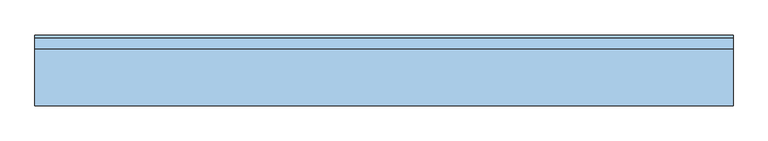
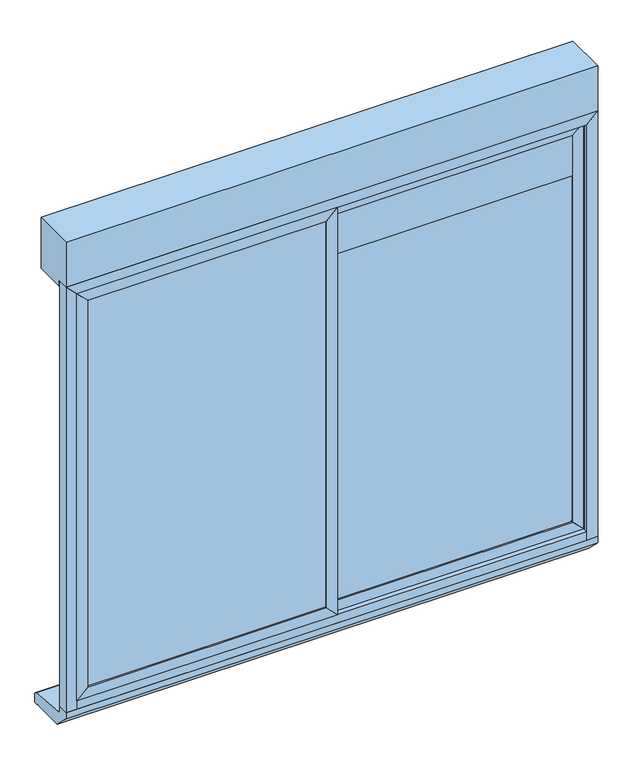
"""IFC4 building model written with IfcOpenShell, lengths in millimetres: window geometry, Rect 2 couliss+CVR+App : M03 Appuis 7 cm."""

from ifc_helpers import new_model, si_unit, point, frame, frame_2d, origin, origin_with_axes, place, context, project, spatial, polyline, circle_curve, trimmed, segment, composite_curve, outline, extrude, faceted_brep, source, transform, mapped, element, save


def window_b85a0a24(model_context):
    return source(origin(), model_context, "Body", "SolidModel", [
        extrude(outline(polyline([(-1200.0, -70.0), (-1200.0, -50.0), (1200.0, -50.0), (1200.0, -70.0), (-1200.0, -70.0)])), frame((0.0, 0.0, 1780.0), z_axis=(0.0, 0.0, 1.0), x_axis=(1.0, 0.0, 0.0)), (0.0, 0.0, 1.0), 395.0),
        extrude(outline(polyline([(100.0, 2300.0), (100.0, 2050.0), (-40.0, 2050.0), (-40.0, 2080.0), (-100.0, 2080.0), (-100.0, 2300.0), (100.0, 2300.0)])), frame((-1230.0, 0.0, 0.0), z_axis=(1.0, 0.0, 0.0), x_axis=(0.0, 1.0, 0.0)), (0.0, 0.0, 1.0), 2460.0),
        extrude(outline(polyline([(1200.0, -40.0), (1200.0, -50.0), (1180.0, -50.0), (1180.0, -40.0), (1200.0, -40.0)])), frame((0.0, 0.0, 40.0), z_axis=(0.0, 0.0, 1.0), x_axis=(1.0, 0.0, 0.0)), (0.0, 0.0, 1.0), 2010.0),
        extrude(outline(polyline([(1180.0, -80.0), (1180.0, -70.0), (1200.0, -70.0), (1200.0, -80.0), (1180.0, -80.0)])), frame((0.0, 0.0, 40.0), z_axis=(0.0, 0.0, 1.0), x_axis=(1.0, 0.0, 0.0)), (0.0, 0.0, 1.0), 2010.0),
        extrude(outline(polyline([(-1200.0, -40.0), (-1180.0, -40.0), (-1180.0, -50.0), (-1200.0, -50.0), (-1200.0, -40.0)])), frame((0.0, 0.0, 40.0), z_axis=(0.0, 0.0, 1.0), x_axis=(1.0, 0.0, 0.0)), (0.0, 0.0, 1.0), 2010.0),
        extrude(outline(polyline([(-1200.0, -80.0), (-1200.0, -70.0), (-1180.0, -70.0), (-1180.0, -80.0), (-1200.0, -80.0)])), frame((0.0, 0.0, 40.0), z_axis=(0.0, 0.0, 1.0), x_axis=(1.0, 0.0, 0.0)), (0.0, 0.0, 1.0), 2010.0),
        extrude(outline(polyline([(40.0, -25.0), (90.0, 25.0), (1980.0, 25.0), (2030.0, -25.0), (40.0, -25.0)])), frame((0.0, -75.0, 0.0), z_axis=(0.0, 1.0, 0.0), x_axis=(0.0, 0.0, 1.0)), (0.0, 0.0, 1.0), 25.0),
        extrude(outline(polyline([(25.0, -67.5), (25.0, -57.5), (1130.0, -57.5), (1130.0, -67.5), (25.0, -67.5)])), frame((0.0, 0.0, 90.0), z_axis=(0.0, 0.0, 1.0), x_axis=(1.0, 0.0, 0.0)), (0.0, 0.0, 1.0), 1890.0),
        extrude(outline(polyline([(40.0, 1180.0), (2030.0, 1180.0), (1980.0, 1130.0), (90.0, 1130.0), (40.0, 1180.0)])), frame((0.0, -75.0, 0.0), z_axis=(0.0, 1.0, 0.0), x_axis=(0.0, 0.0, 1.0)), (0.0, 0.0, 1.0), 25.0),
        extrude(outline(polyline([(40.0, 25.0), (2030.0, 25.0), (1980.0, -25.0), (90.0, -25.0), (40.0, 25.0)])), frame((0.0, -100.0, 0.0), z_axis=(0.0, 1.0, 0.0), x_axis=(0.0, 0.0, 1.0)), (0.0, 0.0, 1.0), 25.0),
        extrude(outline(polyline([(90.0, -1130.0), (1980.0, -1130.0), (2030.0, -1180.0), (40.0, -1180.0), (90.0, -1130.0)])), frame((0.0, -100.0, 0.0), z_axis=(0.0, 1.0, 0.0), x_axis=(0.0, 0.0, 1.0)), (0.0, 0.0, 1.0), 25.0),
        extrude(outline(polyline([(-1130.0, -92.5), (-1130.0, -82.5), (-25.0, -82.5), (-25.0, -92.5), (-1130.0, -92.5)])), frame((0.0, 0.0, 90.0), z_axis=(0.0, 0.0, 1.0), x_axis=(1.0, 0.0, 0.0)), (0.0, 0.0, 1.0), 1890.0),
        extrude(outline(polyline([(90.0, -1130.0), (40.0, -1180.0), (40.0, 25.0), (90.0, -25.0), (90.0, -1130.0)])), frame((0.0, -100.0, 0.0), z_axis=(0.0, 1.0, 0.0), x_axis=(0.0, 0.0, 1.0)), (0.0, 0.0, 1.0), 25.0),
        extrude(outline(polyline([(90.0, 1130.0), (90.0, 25.0), (40.0, -25.0), (40.0, 1180.0), (90.0, 1130.0)])), frame((0.0, -75.0, 0.0), z_axis=(0.0, 1.0, 0.0), x_axis=(0.0, 0.0, 1.0)), (0.0, 0.0, 1.0), 25.0),
        extrude(outline(polyline([(1980.0, 1130.0), (2030.0, 1180.0), (2030.0, -25.0), (1980.0, 25.0), (1980.0, 1130.0)])), frame((0.0, -75.0, 0.0), z_axis=(0.0, 1.0, 0.0), x_axis=(0.0, 0.0, 1.0)), (0.0, 0.0, 1.0), 25.0),
        extrude(outline(polyline([(1980.0, -25.0), (2030.0, 25.0), (2030.0, -1180.0), (1980.0, -1130.0), (1980.0, -25.0)])), frame((0.0, -100.0, 0.0), z_axis=(0.0, 1.0, 0.0), x_axis=(0.0, 0.0, 1.0)), (0.0, 0.0, 1.0), 25.0),
        extrude(outline(polyline([(1210.0, -50.0), (1200.0, -50.0), (1200.0, -40.0), (1210.0, -40.0), (1210.0, -50.0)])), origin_with_axes(), (0.0, 0.0, 1.0), 2050.0),
        extrude(outline(polyline([(-1210.0, -50.0), (-1210.0, -40.0), (-1200.0, -40.0), (-1200.0, -50.0), (-1210.0, -50.0)])), origin_with_axes(), (0.0, 0.0, 1.0), 2050.0),
        extrude(outline(polyline([(2080.0, 1230.0), (2030.0, 1180.0), (0.0, 1180.0), (0.0, 1230.0), (2080.0, 1230.0)])), frame((0.0, -100.0, 0.0), z_axis=(0.0, 1.0, 0.0), x_axis=(0.0, 0.0, 1.0)), (0.0, 0.0, 1.0), 50.0),
        extrude(outline(polyline([(2080.0, -1230.0), (0.0, -1230.0), (0.0, -1180.0), (2030.0, -1180.0), (2080.0, -1230.0)])), frame((0.0, -100.0, 0.0), z_axis=(0.0, 1.0, 0.0), x_axis=(0.0, 0.0, 1.0)), (0.0, 0.0, 1.0), 50.0),
        extrude(outline(polyline([(-1210.0, -40.0), (1210.0, -40.0), (1210.0, -50.0), (-1210.0, -50.0), (-1210.0, -40.0)])), frame((0.0, 0.0, 2050.0), z_axis=(0.0, 0.0, 1.0), x_axis=(1.0, 0.0, 0.0)), (0.0, 0.0, 1.0), 10.0),
        extrude(outline(polyline([(2080.0, 1230.0), (2080.0, -1230.0), (2030.0, -1180.0), (2030.0, 1180.0), (2080.0, 1230.0)])), frame((0.0, -100.0, 0.0), z_axis=(0.0, 1.0, 0.0), x_axis=(0.0, 0.0, 1.0)), (0.0, 0.0, 1.0), 50.0),
        faceted_brep([(-1180.0, -50.0, 40.0), (-1180.0, -50.0, 39.7190155), (-1180.0, -50.0, 0.0), (-1180.0, -100.0, 0.0), (-1180.0, -100.0, 40.0), (1180.0, -50.0, 0.0), (1180.0, -50.0, 39.7190155), (1180.0, -50.0, 40.0), (1180.0, -100.0, 40.0), (1180.0, -100.0, 0.0), (-1200.0, -50.0, 0.0), (-1200.0, -30.0, 0.0), (1200.0, -30.0, 0.0), (1200.0, -50.0, 0.0), (-1200.0, -50.0, 39.7190155), (-1200.0, -30.0, 30.0), (1200.0, -30.0, 30.0), (1200.0, -50.0, 39.7190155)], [[[0, 1, 2, 3, 4]], [[5, 6, 7, 8, 9]], [[4, 8, 7, 0]], [[3, 9, 8, 4]], [[2, 10, 11, 12, 13, 5, 9, 3]], [[7, 6, 1, 0]], [[10, 14, 15, 11]], [[13, 12, 16, 17]], [[15, 16, 12, 11]], [[14, 1, 6, 17, 16, 15]], [[10, 2, 1, 14]], [[17, 6, 5, 13]]]),
        extrude(outline(composite_curve([segment(polyline([(-40.7124705, -30.663395), (140.7124705, -49.336605)]), True, "CONTINUOUS"), segment(trimmed(circle_curve(frame_2d((140.0, -59.311192)), 10.0), [point((140.7124705, -49.336605))], [point((150.0, -59.311192))], False, "CARTESIAN"), True, "CONTINUOUS"), segment(polyline([(150.0, -59.311192), (150.0, -100.0), (130.0, -100.0)]), True, "CONTINUOUS"), segment(trimmed(circle_curve(frame_2d((125.0, -100.0)), 5.0), [point((130.0, -100.0))], [point((120.0, -100.0))], True, "CARTESIAN"), True, "CONTINUOUS"), segment(polyline([(120.0, -100.0), (-30.0, -100.0), (-100.0, -30.0), (-100.0, 0.0), (-50.0, 0.0), (-50.0, -20.688808)]), True, "CONTINUOUS"), segment(trimmed(circle_curve(frame_2d((-40.0, -20.688808)), 10.0), [point((-50.0, -20.688808))], [point((-40.7124705, -30.663395))], True, "CARTESIAN"), True, "CONTINUOUS")], self_intersect=False)), frame((-1230.0, 0.0, 0.0), z_axis=(1.0, 0.0, 0.0), x_axis=(0.0, 1.0, 0.0)), (0.0, 0.0, 1.0), 2460.0),
    ])


if __name__ == "__main__":
    model = new_model("IFC4")
    model_context = context("Model", 3, world=origin())
    ifc_project = project(units=[si_unit("LENGTHUNIT", "METRE", prefix="MILLI")], contexts=[model_context])
    site = spatial("IfcSite", under=ifc_project)
    building = spatial("IfcBuilding", under=site)
    placement = place(None, origin())
    window_shape = window_b85a0a24(model_context)
    element("IfcWindow", 1, ObjectType="Rect 2 couliss+CVR+App : M03 Appuis 7 cm", at=placement, inside=building, context=model_context, shape_type="MappedRepresentation", body=[
        mapped(window_shape, transform((0.0, 0.0, 0.0), x_axis=(1.0, 0.0, 0.0), y_axis=(0.0, 1.0, 0.0), z_axis=(0.0, 0.0, 1.0))),
    ])
    save(model, "model.ifc")
